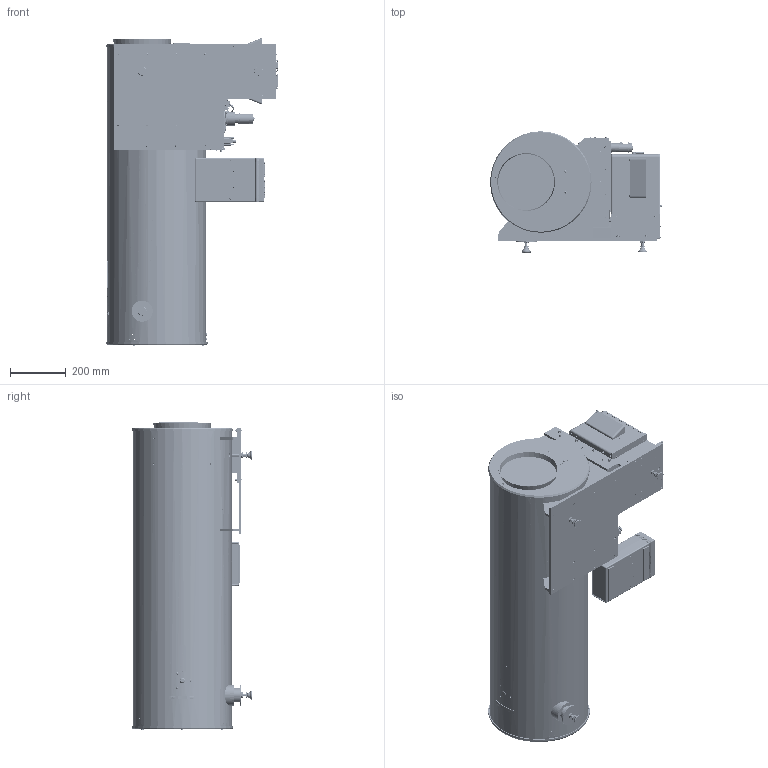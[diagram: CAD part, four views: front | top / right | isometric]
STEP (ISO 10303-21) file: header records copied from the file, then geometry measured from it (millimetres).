
FILE_DESCRIPTION (( 'STEP AP203' ), '1' );
FILE_NAME ('319-001-357_NC.STEP', '2014-09-29T23:24:01', ( '' ), ( '' ), 'SwSTEP 2.0', 'SolidWorks 2013', '' );
FILE_SCHEMA (( 'CONFIG_CONTROL_DESIGN' ));
Products named in the file (14): MTN-007; 312-001-030, DWG,ASSY,TGT WHL MTG KIT,SIDE,312_840 (stripped to part); L-Com CHD15MF_Female End Only; 319-001-175, DOC,SOLID MODEL,4 IN INFINITY BLACKBODY; RJ-12 Plug Cable End with Bent Flat Wire; 312-000-170, DWG,ASSY,ILLUMINATOR,INFINITY,335I (stripped to part); 319-001-357_NC; 312-000-255, DWG,ASSY,BB STAND,DB04_STC840 (stripped to part); 312-000-545, DWG,ASSY,ACEII,stripped to part_with Super Velcro Strips; 3AA06-002_4-40 HEX WITHOUT FILLETS1; 3AA07-002_CSMN9 Screw; 319-000-902, DOC,SOLID MODEL,COLLIMATOR,STC840Z; SDH15S_Supplier Connector; 319-001-341, DOC,SOLID MODEL,TARGET WHEEL,312I
Assembly tree (15 placements, depth 3):
  319-001-357_NC
    319-000-902, DOC,SOLID MODEL,COLLIMATOR,STC840Z
    319-001-341, DOC,SOLID MODEL,TARGET WHEEL,312I
    312-001-030, DWG,ASSY,TGT WHL MTG KIT,SIDE,312_840 (stripped to part)
    319-001-175, DOC,SOLID MODEL,4 IN INFINITY BLACKBODY
    312-000-170, DWG,ASSY,ILLUMINATOR,INFINITY,335I (stripped to part)
    312-000-255, DWG,ASSY,BB STAND,DB04_STC840 (stripped to part)
    312-000-545, DWG,ASSY,ACEII,stripped to part_with Super Velcro Strips
    L-Com CHD15MF_Female End Only
      3AA06-002_4-40 HEX WITHOUT FILLETS1  x2
      3AA07-002_CSMN9 Screw  x2
      SDH15S_Supplier Connector
      MTN-007
    RJ-12 Plug Cable End with Bent Flat Wire
Bounding box: 618.49 x 435.36 x 1110.52 mm (x, y, z)
Volume: 47966492.7 mm3; surface area: 6564705.2 mm2
Topology: 345 solids, 422 shells, 17972 faces, 47103 edges, 30636 vertices
Faces by surface type: plane 8557, cylinder 5749, bspline 1525, cone 1419, torus 453, sphere 269
Entity records: 630705 total; most frequent: CARTESIAN_POINT 189439, ORIENTED_EDGE 90356, DIRECTION 89047, EDGE_CURVE 46524, AXIS2_PLACEMENT_3D 31622, VERTEX_POINT 30449, LINE 25803, VECTOR 25803
